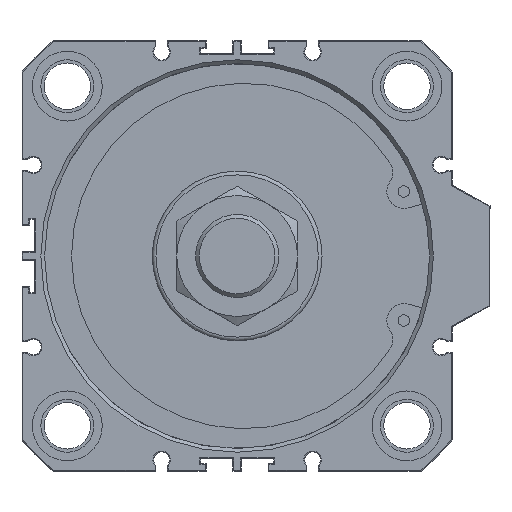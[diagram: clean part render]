
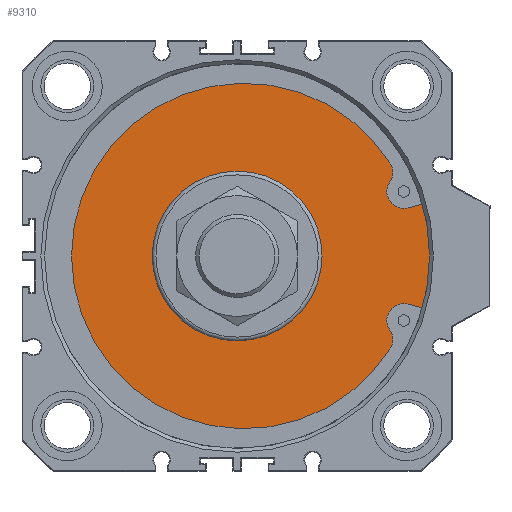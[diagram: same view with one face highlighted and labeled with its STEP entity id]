
A CAD part, front view. The second image highlights one B-rep face of the part: STEP entity #9310.
In plain terms, the highlighted planar face has unit normal (0, -1, 0).
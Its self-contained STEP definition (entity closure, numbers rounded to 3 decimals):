
#131=LINE('',#12784,#731);
#132=LINE('',#12797,#732);
#731=VECTOR('',#10707,1000.);
#732=VECTOR('',#10718,1000.);
#1346=PLANE('',#9836);
#1974=ORIENTED_EDGE('',*,*,#3595,.T.);
#1975=ORIENTED_EDGE('',*,*,#3596,.T.);
#1976=ORIENTED_EDGE('',*,*,#3597,.T.);
#1977=ORIENTED_EDGE('',*,*,#3598,.T.);
#1978=ORIENTED_EDGE('',*,*,#3599,.T.);
#1979=ORIENTED_EDGE('',*,*,#3600,.T.);
#1980=ORIENTED_EDGE('',*,*,#3601,.T.);
#1981=ORIENTED_EDGE('',*,*,#3602,.F.);
#1982=ORIENTED_EDGE('',*,*,#3592,.F.);
#3592=EDGE_CURVE('',#4433,#4433,#4926,.T.);
#3595=EDGE_CURVE('',#4436,#4437,#131,.T.);
#3596=EDGE_CURVE('',#4437,#4438,#4929,.T.);
#3597=EDGE_CURVE('',#4438,#4439,#4930,.T.);
#3598=EDGE_CURVE('',#4439,#4440,#4931,.T.);
#3599=EDGE_CURVE('',#4440,#4441,#4932,.T.);
#3600=EDGE_CURVE('',#4441,#4442,#4933,.T.);
#3601=EDGE_CURVE('',#4442,#4443,#132,.T.);
#3602=EDGE_CURVE('',#4436,#4443,#4934,.T.);
#4433=VERTEX_POINT('',#12776);
#4436=VERTEX_POINT('',#12785);
#4437=VERTEX_POINT('',#12786);
#4438=VERTEX_POINT('',#12788);
#4439=VERTEX_POINT('',#12790);
#4440=VERTEX_POINT('',#12792);
#4441=VERTEX_POINT('',#12794);
#4442=VERTEX_POINT('',#12796);
#4443=VERTEX_POINT('',#12798);
#4926=CIRCLE('',#9831,22.5);
#4929=CIRCLE('',#9837,4.5);
#4930=CIRCLE('',#9838,4.5);
#4931=CIRCLE('',#9839,45.77);
#4932=CIRCLE('',#9840,4.5);
#4933=CIRCLE('',#9841,4.5);
#4934=CIRCLE('',#9842,53.);
#5203=EDGE_LOOP('',(#1974,#1975,#1976,#1977,#1978,#1979,#1980,#1981));
#5204=EDGE_LOOP('',(#1982));
#5717=FACE_BOUND('',#5203,.T.);
#5718=FACE_BOUND('',#5204,.T.);
#9310=ADVANCED_FACE('',(#5717,#5718),#1346,.T.);
#9831=AXIS2_PLACEMENT_3D('',#12775,#10695,#10696);
#9836=AXIS2_PLACEMENT_3D('',#12783,#10705,#10706);
#9837=AXIS2_PLACEMENT_3D('',#12787,#10708,#10709);
#9838=AXIS2_PLACEMENT_3D('',#12789,#10710,#10711);
#9839=AXIS2_PLACEMENT_3D('',#12791,#10712,#10713);
#9840=AXIS2_PLACEMENT_3D('',#12793,#10714,#10715);
#9841=AXIS2_PLACEMENT_3D('',#12795,#10716,#10717);
#9842=AXIS2_PLACEMENT_3D('',#12799,#10719,#10720);
#10695=DIRECTION('',(0.,-1.,0.));
#10696=DIRECTION('',(1.,0.,0.));
#10705=DIRECTION('',(0.,-1.,0.));
#10706=DIRECTION('',(1.,0.,0.));
#10707=DIRECTION('',(-0.966,0.,-0.259));
#10708=DIRECTION('',(0.,1.,0.));
#10709=DIRECTION('',(1.,0.,0.));
#10710=DIRECTION('',(0.,-1.,0.));
#10711=DIRECTION('',(-1.,0.,0.));
#10712=DIRECTION('',(0.,-1.,0.));
#10713=DIRECTION('',(1.,0.,0.));
#10714=DIRECTION('',(0.,-1.,0.));
#10715=DIRECTION('',(-1.,0.,0.));
#10716=DIRECTION('',(0.,1.,0.));
#10717=DIRECTION('',(1.,0.,0.));
#10718=DIRECTION('',(0.966,0.,-0.259));
#10719=DIRECTION('',(0.,1.,0.));
#10720=DIRECTION('',(-1.,0.,0.));
#12775=CARTESIAN_POINT('',(0.,8.,0.));
#12776=CARTESIAN_POINT('',(22.5,8.,0.));
#12783=CARTESIAN_POINT('',(0.,8.,-53.));
#12784=CARTESIAN_POINT('',(51.039,8.,14.283));
#12785=CARTESIAN_POINT('',(51.039,8.,14.283));
#12786=CARTESIAN_POINT('',(45.35,8.,12.758));
#12787=CARTESIAN_POINT('',(44.185,8.,17.105));
#12788=CARTESIAN_POINT('',(40.45,8.,19.615));
#12789=CARTESIAN_POINT('',(36.73,8.,22.147));
#12790=CARTESIAN_POINT('',(40.642,8.,24.372));
#12791=CARTESIAN_POINT('',(1.9,8.,0.));
#12792=CARTESIAN_POINT('',(40.642,8.,-24.372));
#12793=CARTESIAN_POINT('',(36.73,8.,-22.147));
#12794=CARTESIAN_POINT('',(40.45,8.,-19.615));
#12795=CARTESIAN_POINT('',(44.185,8.,-17.105));
#12796=CARTESIAN_POINT('',(45.35,8.,-12.758));
#12797=CARTESIAN_POINT('',(45.35,8.,-12.758));
#12798=CARTESIAN_POINT('',(51.039,8.,-14.283));
#12799=CARTESIAN_POINT('',(0.,8.,0.));
